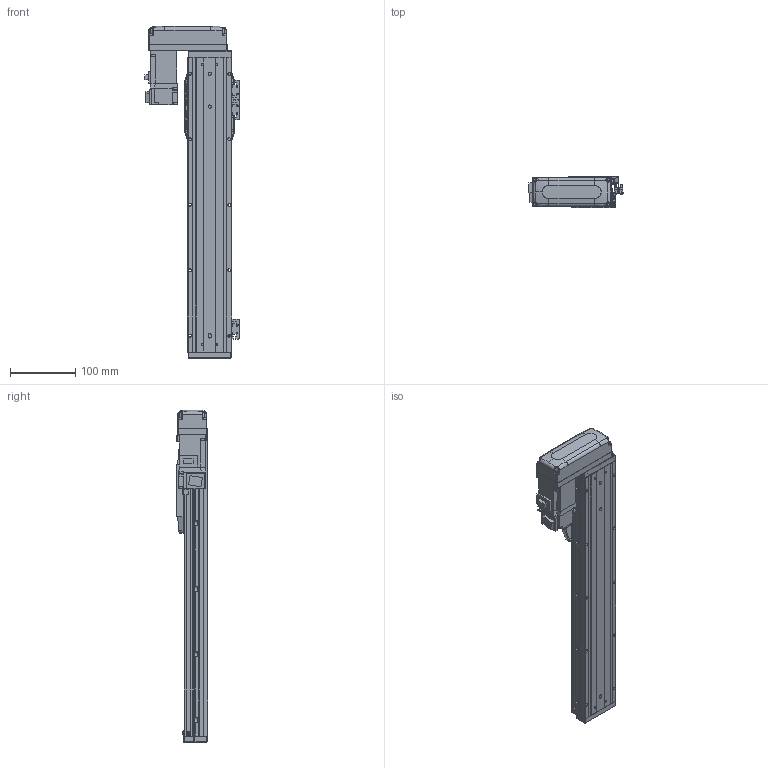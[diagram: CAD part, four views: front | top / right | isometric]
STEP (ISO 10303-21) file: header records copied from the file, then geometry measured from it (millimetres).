
FILE_DESCRIPTION (( 'STEP AP203' ), '1' );
FILE_NAME ('CTHA60-300-BR-M10-C4L.step', '2022-03-19T06:21:46', ( '微软用户' ), ( '微软中国' ), 'SwSTEP 2.0', 'SolidWorks 2020', '' );
FILE_SCHEMA (( 'CONFIG_CONTROL_DESIGN' ));
Length unit declared in the file: millimetre
Products named in the file (18): CTHA60-017; HG-KR13（三菱）; CTHA60-021; CTHA60-002; CTHA60-001_450; GBT 70.1-M4×16; CTHA60-031; CTHA60-004; GBT77-2000 M3×3; CTHA60-006-1; CTHA60-005; GBT 70.1-M3℅6; CTHA60-033; GB¨uT 70.2-M3¡Á6_M3¡Á6; GBT 70.3-M3℅6; CTHA60-300-BR-M10-C4L; EE_SX911P_R; CTHA60-016
Assembly tree (54 placements, depth 2):
  CTHA60-300-BR-M10-C4L
    CTHA60-001_450
    CTHA60-004
    CTHA60-005
    GB¨uT 70.2-M3¡Á6_M3¡Á6  x10
    EE_SX911P_R  x3
    CTHA60-017  x3
    CTHA60-021  x2
    GBT 70.1-M4×16  x10
    GBT77-2000 M3×3  x6
    GBT 70.1-M3℅6  x6
    GBT 70.3-M3℅6  x4
    CTHA60-016  x2
    HG-KR13（三菱）
    CTHA60-002
    CTHA60-031
    CTHA60-006-1
    CTHA60-033
Bounding box: 143.62 x 48 x 507 mm (x, y, z)
Volume: 977327 mm3; surface area: 306537.2 mm2
Topology: 56 solids, 56 shells, 2474 faces, 5925 edges, 3649 vertices
Faces by surface type: plane 1425, cylinder 565, cone 336, torus 92, bspline 32, sphere 24
Entity records: 43719 total; most frequent: CARTESIAN_POINT 8474, DIRECTION 6726, ORIENTED_EDGE 6658, EDGE_CURVE 3329, LINE 2358, VECTOR 2358, AXIS2_PLACEMENT_3D 2184, VERTEX_POINT 2108
